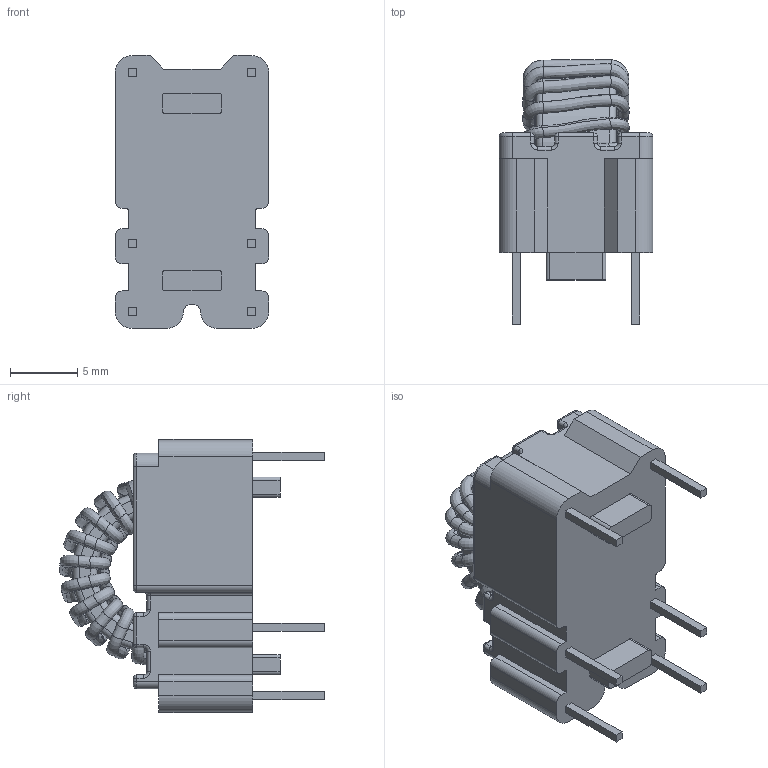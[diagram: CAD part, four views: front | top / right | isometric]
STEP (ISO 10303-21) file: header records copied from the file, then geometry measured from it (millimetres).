
FILE_DESCRIPTION (( 'STEP AP214' ), '1' );
FILE_NAME ('P0584.STEP', '2017-09-13T01:51:05', ( '' ), ( '' ), 'SwSTEP 2.0', 'SolidWorks 2015', '' );
FILE_SCHEMA (( 'AUTOMOTIVE_DESIGN' ));
Length unit declared in the file: millimetre
Products named in the file (3): 032-P0584; 043-2383; P0584
Assembly tree (2 placements, depth 2):
  P0584
    043-2383
    032-P0584
Bounding box: 11.43 x 19.71 x 20.32 mm (x, y, z)
Volume: 1370 mm3; surface area: 2989.1 mm2
Topology: 3 solids, 3 shells, 641 faces, 1431 edges, 780 vertices
Faces by surface type: bspline 323, cylinder 133, plane 112, torus 49, sphere 24
Entity records: 43315 total; most frequent: CARTESIAN_POINT 27215, ORIENTED_EDGE 2814, DIRECTION 2361, EDGE_CURVE 1407, AXIS2_PLACEMENT_3D 966, VERTEX_POINT 780, EDGE_LOOP 651, CIRCLE 643
